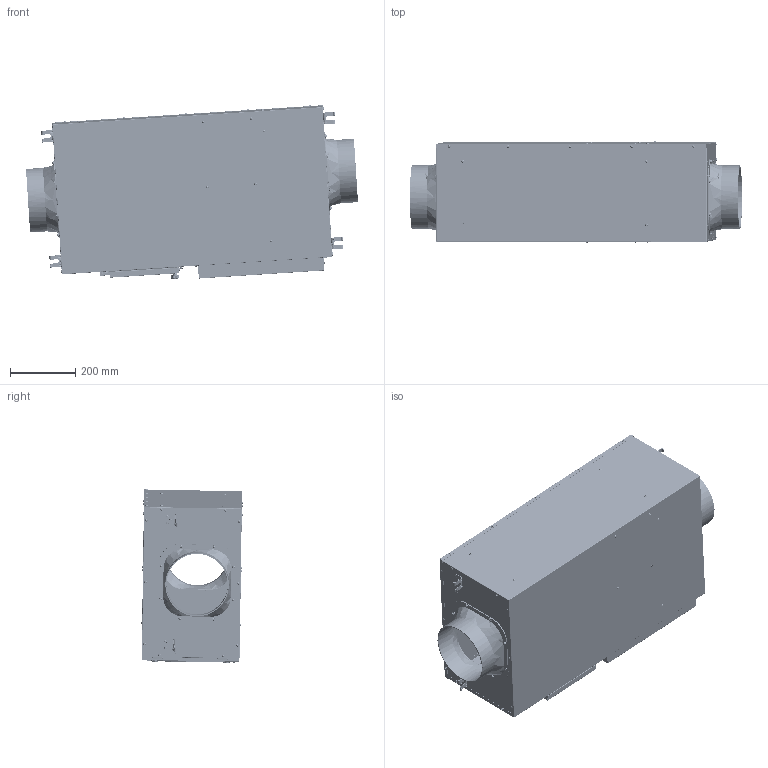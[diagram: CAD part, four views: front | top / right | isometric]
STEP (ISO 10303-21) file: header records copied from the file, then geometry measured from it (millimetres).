
FILE_DESCRIPTION((''),'2;1');
FILE_NAME('ZONGZHUANG_ASM_ASM','2021-08-26T',('44266'),(''),'CREO PARAMETRIC BY PTC INC, 2017170','CREO PARAMETRIC BY PTC INC, 2017170','');
FILE_SCHEMA(('CONFIG_CONTROL_DESIGN'));
Products named in the file (37): DIBAN_8; M5LAMAOLUOMU_3; L4X14X01HJ_3; DIBANZUJIAN_ASM_3_ASM; ZUOCEBAN_3; ZUOCEBANZUJIAN_ASM_3_ASM; DINGBAN_3; DINGGAIZUJIAN_ASM_3_ASM; YOUCEBAN_3; YOUCEBANZUJIAN_ASM_3_ASM; GUAJIAO_3; JIANXIUMEN_5; SUOPIAN_3; M5SHOUNINGLUOMU_3; JIANXIUMENMIAN_3; 321040041017_2; 321040041018_2; 321040041024_2; 321040041023_ASM_2_ASM; JIANXIUMENZUJIAN_ASM_5_ASM; DIANKONGHEGAIBAN_3; 200FENGKOU_3; C4X10X01ST_3; PTCDUANZI1ASS_ASM_3_ASM; PTCDUANZIASS_ASM_3_ASM; C5X12X01W2SF_3_1; C5X12X01W2SF_3_2; C5X12X01W2SF_3_ASM; FENGKOUMIAN_4; 321040101058_3; HUXIANTAO_3; C4X10X02W2SF_3_2; C4X10X02W2SF_3_ASM; M4X10CX_3; 321050051110_2; ZONGZHUANG_ASM_5_ASM; ZONGZHUANG_ASM_ASM
Assembly tree (178 placements, depth 5):
  ZONGZHUANG_ASM_ASM
    ZONGZHUANG_ASM_5_ASM
      DIBANZUJIAN_ASM_3_ASM
        DIBAN_8
        M5LAMAOLUOMU_3  x3
        L4X14X01HJ_3  x6
      ZUOCEBANZUJIAN_ASM_3_ASM
        ZUOCEBAN_3
      DINGGAIZUJIAN_ASM_3_ASM
        DINGBAN_3
        L4X14X01HJ_3  x4
      YOUCEBANZUJIAN_ASM_3_ASM
        YOUCEBAN_3
      GUAJIAO_3  x4
      JIANXIUMENZUJIAN_ASM_5_ASM
        JIANXIUMEN_5
        SUOPIAN_3
        M5SHOUNINGLUOMU_3  x2
        JIANXIUMENMIAN_3
        321040041023_ASM_2_ASM  x2
          321040041017_2
          321040041018_2
          321040041024_2
      DIANKONGHEGAIBAN_3
      200FENGKOU_3  x2
      C4X10X01ST_3  x107
      PTCDUANZIASS_ASM_3_ASM
        PTCDUANZI1ASS_ASM_3_ASM  x3
      C5X12X01W2SF_3_ASM
        C5X12X01W2SF_3_1
        C5X12X01W2SF_3_2
      FENGKOUMIAN_4  x2
      321040101058_3
      HUXIANTAO_3
      C4X10X02W2SF_3_ASM  x6
        C4X10X02W2SF_3_2
      M4X10CX_3  x12
      321050051110_2
Bounding box: 1017.07 x 311.19 x 532.26 mm (x, y, z)
Volume: 2800237.9 mm3; surface area: 3867052.9 mm2
Topology: 167 solids, 167 shells, 9214 faces, 25118 edges, 16343 vertices
Faces by surface type: cylinder 3572, plane 2627, bspline 1614, extrusion 479, cone 348, torus 346, sphere 220, revolution 8
Entity records: 86816 total; most frequent: CARTESIAN_POINT 39299, DIRECTION 9727, ORIENTED_EDGE 9664, EDGE_CURVE 4832, AXIS2_PLACEMENT_3D 3664, VERTEX_POINT 3091, VECTOR 2391, LINE 2358
